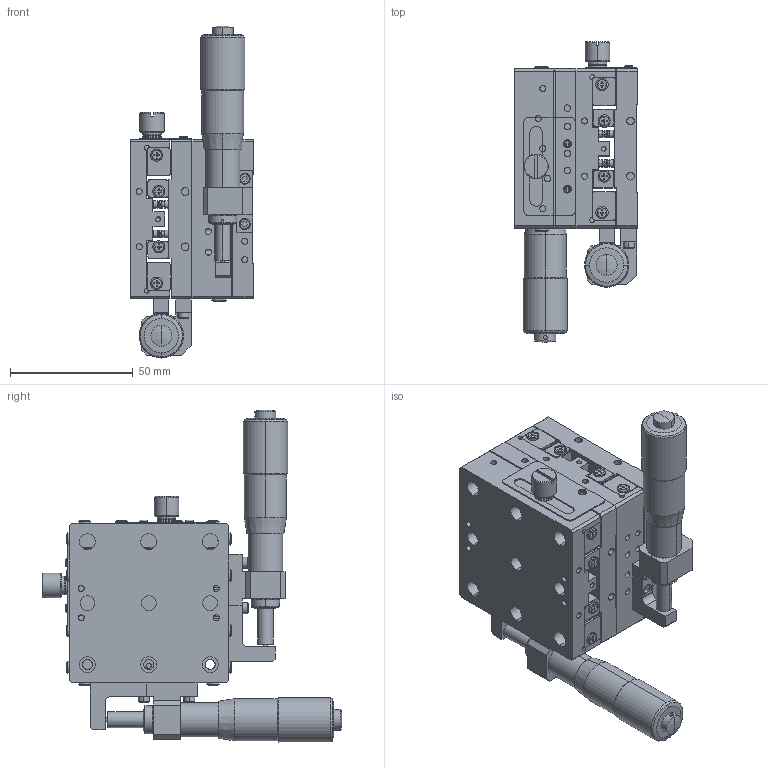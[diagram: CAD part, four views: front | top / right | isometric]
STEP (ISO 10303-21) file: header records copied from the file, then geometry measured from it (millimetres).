
FILE_DESCRIPTION (( 'STEP AP214' ), '1' );
FILE_NAME ('PBL-652S-M6.STEP', '2018-11-15T07:32:31', ( '微软用户' ), ( '微软中国' ), 'SwSTEP 2.0', 'SolidWorks 2015', '' );
FILE_SCHEMA (( 'AUTOMOTIVE_DESIGN' ));
Length unit declared in the file: millimetre
Products named in the file (1): PBL-652S-M6
Bounding box: 50 x 122.19 x 135.24 mm (x, y, z)
Volume: 211048 mm3; surface area: 115763.1 mm2
Topology: 92 solids, 92 shells, 2143 faces, 5207 edges, 3390 vertices
Faces by surface type: plane 1050, cylinder 852, cone 219, bspline 22
Entity records: 90335 total; most frequent: CARTESIAN_POINT 13768, DIRECTION 11141, ORIENTED_EDGE 10374, EDGE_CURVE 5187, AXIS2_PLACEMENT_3D 4085, VERTEX_POINT 3390, LINE 2971, VECTOR 2971
